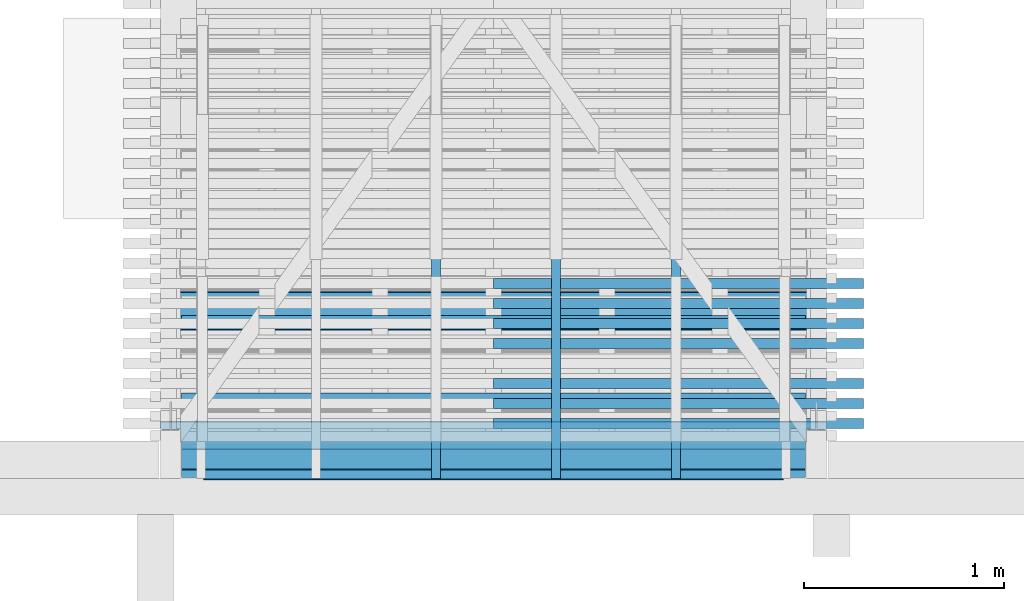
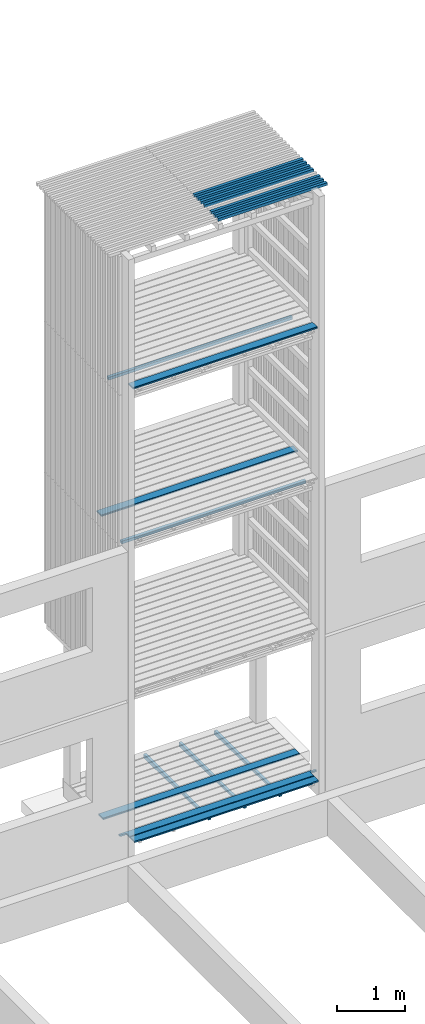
# One storey, part 18 of 182: 17 beams.
"""IFC2X3 building model written with IfcOpenShell, lengths in metres."""

from ifc_helpers import new_model, si_unit, frame, origin, place, context, project, spatial, faceted_brep, element, save


model = new_model("IFC2X3")

# Units and contexts
model_context = context("Model", 3, precision=1e-06, world=origin())
ifc_project = project(units=[si_unit("LENGTHUNIT", "METRE"), si_unit("PLANEANGLEUNIT", "RADIAN")], contexts=[model_context])

# Site, building, storey
site = spatial("IfcSite", under=ifc_project, CompositionType="ELEMENT")
building = spatial("IfcBuilding", under=site, CompositionType="ELEMENT")
storey = spatial("IfcBuildingStorey", under=building, Name="vs", CompositionType="ELEMENT", Elevation=-0.85)

# Beams
placement = place(None, origin())
beam_1_placement = place(placement, frame((6.829197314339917, 11.145077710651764, 10.47999999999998), z_axis=(0.0, 0.0, 1.0), x_axis=(-1.0, 0.0, 0.0)))
element("IfcBeam", 1, at=beam_1_placement, inside=storey, Name="Bardage", context=model_context, shape_type="Brep", body=[
    faceted_brep([(-3e-15, 0.024999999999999, 0.025000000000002), (-3e-15, -0.025000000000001, 0.025000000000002), (1.849999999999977, -0.025000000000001, 0.025000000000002), (1.849999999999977, 0.024999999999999, 0.025000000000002), (1.849999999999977, -0.025000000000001, 0.025000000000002), (-3e-15, -0.025000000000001, 0.025000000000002), (-3e-15, -0.025000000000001, -0.024999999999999), (1.849999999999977, -0.025000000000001, -0.024999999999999), (-3e-15, -0.025000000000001, 0.025000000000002), (-3e-15, 0.024999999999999, 0.025000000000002), (-3e-15, 0.024999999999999, -0.024999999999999), (-3e-15, -0.025000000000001, -0.024999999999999), (-3e-15, 0.024999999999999, -0.024999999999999), (-3e-15, 0.024999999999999, 0.025000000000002), (1.849999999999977, 0.024999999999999, 0.025000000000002), (1.849999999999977, 0.024999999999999, -0.024999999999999), (1.849999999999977, -0.025000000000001, -0.024999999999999), (-3e-15, -0.025000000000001, -0.024999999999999), (-3e-15, 0.024999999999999, -0.024999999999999), (1.849999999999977, 0.024999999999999, -0.024999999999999), (1.849999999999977, -0.025000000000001, 0.025000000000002), (1.849999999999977, -0.025000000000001, -0.024999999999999), (1.849999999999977, 0.024999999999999, -0.024999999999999), (1.849999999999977, 0.024999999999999, 0.025000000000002)], [[[0, 1, 2, 3]], [[4, 5, 6, 7]], [[8, 9, 10, 11]], [[12, 13, 14, 15]], [[16, 17, 18, 19]], [[20, 21, 22, 23]]]),
])
beam_2_placement = place(placement, frame((6.829197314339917, 10.945077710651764, 10.47999999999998), z_axis=(0.0, 0.0, 1.0), x_axis=(-1.0, 2e-15, 0.0)))
element("IfcBeam", 2, at=beam_2_placement, inside=storey, Name="Bardage", context=model_context, shape_type="Brep", body=[
    faceted_brep([(-3e-15, 0.024999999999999, 0.025000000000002), (-3e-15, -0.025000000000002, 0.025000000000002), (1.849999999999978, -0.024999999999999, 0.025000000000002), (1.849999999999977, 0.025000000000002, 0.025000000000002), (1.849999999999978, -0.024999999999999, 0.025000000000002), (-3e-15, -0.025000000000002, 0.025000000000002), (-3e-15, -0.025000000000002, -0.024999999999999), (1.849999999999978, -0.024999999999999, -0.024999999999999), (-3e-15, -0.025000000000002, 0.025000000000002), (-3e-15, 0.024999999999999, 0.025000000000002), (-3e-15, 0.024999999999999, -0.024999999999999), (-3e-15, -0.025000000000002, -0.024999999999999), (-3e-15, 0.024999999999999, -0.024999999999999), (-3e-15, 0.024999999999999, 0.025000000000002), (1.849999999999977, 0.025000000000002, 0.025000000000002), (1.849999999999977, 0.025000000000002, -0.024999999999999), (1.849999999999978, -0.024999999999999, -0.024999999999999), (-3e-15, -0.025000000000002, -0.024999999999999), (-3e-15, 0.024999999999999, -0.024999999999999), (1.849999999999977, 0.025000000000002, -0.024999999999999), (1.849999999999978, -0.024999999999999, 0.025000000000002), (1.849999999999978, -0.024999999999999, -0.024999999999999), (1.849999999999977, 0.025000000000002, -0.024999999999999), (1.849999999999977, 0.025000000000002, 0.025000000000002)], [[[0, 1, 2, 3]], [[4, 5, 6, 7]], [[8, 9, 10, 11]], [[12, 13, 14, 15]], [[16, 17, 18, 19]], [[20, 21, 22, 23]]]),
])
beam_3_placement = place(placement, frame((6.829197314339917, 11.345077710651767, 10.47999999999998), z_axis=(0.0, 0.0, 1.0), x_axis=(-1.0, 0.0, 0.0)))
element("IfcBeam", 3, at=beam_3_placement, inside=storey, Name="Bardage", context=model_context, shape_type="Brep", body=[
    faceted_brep([(-3e-15, 0.025000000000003, 0.025000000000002), (-3e-15, -0.024999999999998, 0.025000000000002), (1.849999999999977, -0.024999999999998, 0.025000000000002), (1.849999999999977, 0.024999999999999, 0.025000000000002), (1.849999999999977, -0.024999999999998, 0.025000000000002), (-3e-15, -0.024999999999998, 0.025000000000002), (-3e-15, -0.024999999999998, -0.024999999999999), (1.849999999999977, -0.024999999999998, -0.024999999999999), (-3e-15, -0.024999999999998, 0.025000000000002), (-3e-15, 0.025000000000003, 0.025000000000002), (-3e-15, 0.025000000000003, -0.024999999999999), (-3e-15, -0.024999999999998, -0.024999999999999), (-3e-15, 0.025000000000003, -0.024999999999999), (-3e-15, 0.025000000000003, 0.025000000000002), (1.849999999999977, 0.024999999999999, 0.025000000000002), (1.849999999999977, 0.024999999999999, -0.024999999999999), (1.849999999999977, -0.024999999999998, -0.024999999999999), (-3e-15, -0.024999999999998, -0.024999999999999), (-3e-15, 0.025000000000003, -0.024999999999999), (1.849999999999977, 0.024999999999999, -0.024999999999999), (1.849999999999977, -0.024999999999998, 0.025000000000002), (1.849999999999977, -0.024999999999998, -0.024999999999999), (1.849999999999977, 0.024999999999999, -0.024999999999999), (1.849999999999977, 0.024999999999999, 0.025000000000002)], [[[0, 1, 2, 3]], [[4, 5, 6, 7]], [[8, 9, 10, 11]], [[12, 13, 14, 15]], [[16, 17, 18, 19]], [[20, 21, 22, 23]]]),
])
beam_4_placement = place(placement, frame((5.892197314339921, 10.470077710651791, -0.015599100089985), z_axis=(0.0, 0.0, 1.0), x_axis=(0.0, 1.0, 0.0)))
element("IfcBeam", 4, at=beam_4_placement, inside=storey, Name="Calage", context=model_context, shape_type="Brep", body=[
    faceted_brep([(0.0, 0.022499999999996, 0.002600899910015), (1.91000000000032, 0.022499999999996, -0.035599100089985), (1.91000000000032, -0.022500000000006, -0.035599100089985), (0.0, -0.022500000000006, 0.002600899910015), (0.0, -0.022500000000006, 0.035599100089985), (0.0, 0.022499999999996, 0.035599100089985), (0.0, 0.022499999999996, 0.002600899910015), (0.0, -0.022500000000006, 0.002600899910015), (0.0, 0.022499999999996, 0.035599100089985), (0.0, -0.022500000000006, 0.035599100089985), (1.91000000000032, -0.022500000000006, 0.035599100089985), (1.91000000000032, 0.022499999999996, 0.035599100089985), (0.0, 0.022499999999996, 0.002600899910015), (0.0, 0.022499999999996, 0.035599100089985), (1.91000000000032, 0.022499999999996, 0.035599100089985), (1.91000000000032, 0.022499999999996, -0.035599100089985), (1.91000000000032, 0.022499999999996, -0.035599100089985), (1.91000000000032, 0.022499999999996, 0.035599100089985), (1.91000000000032, -0.022500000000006, 0.035599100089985), (1.91000000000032, -0.022500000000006, -0.035599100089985), (1.91000000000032, -0.022500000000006, -0.035599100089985), (1.91000000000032, -0.022500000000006, 0.035599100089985), (0.0, -0.022500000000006, 0.035599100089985), (0.0, -0.022500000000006, 0.002600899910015)], [[[0, 1, 2, 3]], [[4, 5, 6, 7]], [[8, 9, 10, 11]], [[12, 13, 14, 15]], [[16, 17, 18, 19]], [[20, 21, 22, 23]]]),
])
beam_5_placement = place(placement, frame((6.829197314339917, 10.745077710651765, 10.47999999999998), z_axis=(0.0, 0.0, 1.0), x_axis=(-1.0, 0.0, 0.0)))
element("IfcBeam", 5, at=beam_5_placement, inside=storey, Name="Bardage", context=model_context, shape_type="Brep", body=[
    faceted_brep([(-3e-15, 0.024999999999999, 0.025000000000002), (-3e-15, -0.024999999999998, 0.025000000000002), (1.849999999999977, -0.025000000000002, 0.025000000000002), (1.849999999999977, 0.024999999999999, 0.025000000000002), (1.849999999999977, -0.025000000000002, 0.025000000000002), (-3e-15, -0.024999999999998, 0.025000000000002), (-3e-15, -0.024999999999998, -0.024999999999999), (1.849999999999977, -0.025000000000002, -0.024999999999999), (-3e-15, -0.024999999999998, 0.025000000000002), (-3e-15, 0.024999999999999, 0.025000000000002), (-3e-15, 0.024999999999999, -0.024999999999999), (-3e-15, -0.024999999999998, -0.024999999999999), (-3e-15, 0.024999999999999, -0.024999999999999), (-3e-15, 0.024999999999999, 0.025000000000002), (1.849999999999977, 0.024999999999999, 0.025000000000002), (1.849999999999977, 0.024999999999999, -0.024999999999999), (1.849999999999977, -0.025000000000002, -0.024999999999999), (-3e-15, -0.024999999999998, -0.024999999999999), (-3e-15, 0.024999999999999, -0.024999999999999), (1.849999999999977, 0.024999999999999, -0.024999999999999), (1.849999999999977, -0.025000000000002, 0.025000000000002), (1.849999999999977, -0.025000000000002, -0.024999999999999), (1.849999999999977, 0.024999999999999, -0.024999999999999), (1.849999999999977, 0.024999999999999, 0.025000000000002)], [[[0, 1, 2, 3]], [[4, 5, 6, 7]], [[8, 9, 10, 11]], [[12, 13, 14, 15]], [[16, 17, 18, 19]], [[20, 21, 22, 23]]]),
])
beam_6_placement = place(placement, frame((6.829197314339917, 10.845077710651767, 10.47999999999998), z_axis=(0.0, 0.0, 1.0), x_axis=(-1.0, 0.0, 0.0)))
element("IfcBeam", 6, at=beam_6_placement, inside=storey, Name="Bardage", context=model_context, shape_type="Brep", body=[
    faceted_brep([(-3e-15, 0.025000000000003, 0.025000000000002), (-3e-15, -0.024999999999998, 0.025000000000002), (1.849999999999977, -0.024999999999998, 0.025000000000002), (1.849999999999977, 0.025000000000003, 0.025000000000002), (1.849999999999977, -0.024999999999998, 0.025000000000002), (-3e-15, -0.024999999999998, 0.025000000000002), (-3e-15, -0.024999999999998, -0.024999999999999), (1.849999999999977, -0.024999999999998, -0.024999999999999), (-3e-15, -0.024999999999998, 0.025000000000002), (-3e-15, 0.025000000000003, 0.025000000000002), (-3e-15, 0.025000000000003, -0.024999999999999), (-3e-15, -0.024999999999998, -0.024999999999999), (-3e-15, 0.025000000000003, -0.024999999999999), (-3e-15, 0.025000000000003, 0.025000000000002), (1.849999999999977, 0.025000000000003, 0.025000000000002), (1.849999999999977, 0.025000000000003, -0.024999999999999), (1.849999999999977, -0.024999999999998, -0.024999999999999), (-3e-15, -0.024999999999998, -0.024999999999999), (-3e-15, 0.025000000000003, -0.024999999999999), (1.849999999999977, 0.025000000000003, -0.024999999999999), (1.849999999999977, -0.024999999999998, 0.025000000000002), (1.849999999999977, -0.024999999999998, -0.024999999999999), (1.849999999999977, 0.025000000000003, -0.024999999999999), (1.849999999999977, 0.025000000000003, 0.025000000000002)], [[[0, 1, 2, 3]], [[4, 5, 6, 7]], [[8, 9, 10, 11]], [[12, 13, 14, 15]], [[16, 17, 18, 19]], [[20, 21, 22, 23]]]),
])
beam_7_placement = place(placement, frame((6.829197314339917, 11.445077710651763, 10.47999999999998), z_axis=(0.0, 0.0, 1.0), x_axis=(-1.0, 2e-15, 0.0)))
element("IfcBeam", 7, at=beam_7_placement, inside=storey, Name="Bardage", context=model_context, shape_type="Brep", body=[
    faceted_brep([(-3e-15, 0.024999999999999, 0.025000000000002), (-3e-15, -0.025000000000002, 0.025000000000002), (1.849999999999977, -0.024999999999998, 0.025000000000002), (1.849999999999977, 0.025000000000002, 0.025000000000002), (1.849999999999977, -0.024999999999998, 0.025000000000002), (-3e-15, -0.025000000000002, 0.025000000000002), (-3e-15, -0.025000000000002, -0.024999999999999), (1.849999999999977, -0.024999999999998, -0.024999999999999), (-3e-15, -0.025000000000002, 0.025000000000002), (-3e-15, 0.024999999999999, 0.025000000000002), (-3e-15, 0.024999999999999, -0.024999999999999), (-3e-15, -0.025000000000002, -0.024999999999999), (-3e-15, 0.024999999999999, -0.024999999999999), (-3e-15, 0.024999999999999, 0.025000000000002), (1.849999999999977, 0.025000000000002, 0.025000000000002), (1.849999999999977, 0.025000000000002, -0.024999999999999), (1.849999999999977, -0.024999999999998, -0.024999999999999), (-3e-15, -0.025000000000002, -0.024999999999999), (-3e-15, 0.024999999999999, -0.024999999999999), (1.849999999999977, 0.025000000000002, -0.024999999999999), (1.849999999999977, -0.024999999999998, 0.025000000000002), (1.849999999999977, -0.024999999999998, -0.024999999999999), (1.849999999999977, 0.025000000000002, -0.024999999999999), (1.849999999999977, 0.025000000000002, 0.025000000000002)], [[[0, 1, 2, 3]], [[4, 5, 6, 7]], [[8, 9, 10, 11]], [[12, 13, 14, 15]], [[16, 17, 18, 19]], [[20, 21, 22, 23]]]),
])
beam_8_placement = place(placement, frame((5.292197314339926, 10.470077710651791, -0.015599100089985), z_axis=(0.0, 0.0, 1.0), x_axis=(0.0, 1.0, 0.0)))
element("IfcBeam", 8, at=beam_8_placement, inside=storey, Name="Calage", context=model_context, shape_type="Brep", body=[
    faceted_brep([(0.0, 0.02249999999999, 0.002600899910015), (1.91000000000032, 0.02249999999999, -0.035599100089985), (1.91000000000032, -0.022499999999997, -0.035599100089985), (0.0, -0.022499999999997, 0.002600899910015), (0.0, -0.022499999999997, 0.035599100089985), (0.0, 0.02249999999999, 0.035599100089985), (0.0, 0.02249999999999, 0.002600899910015), (0.0, -0.022499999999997, 0.002600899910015), (0.0, 0.02249999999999, 0.035599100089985), (0.0, -0.022499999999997, 0.035599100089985), (1.91000000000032, -0.022499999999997, 0.035599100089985), (1.91000000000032, 0.02249999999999, 0.035599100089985), (0.0, 0.02249999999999, 0.002600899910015), (0.0, 0.02249999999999, 0.035599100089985), (1.91000000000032, 0.02249999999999, 0.035599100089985), (1.91000000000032, 0.02249999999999, -0.035599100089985), (1.91000000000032, 0.02249999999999, -0.035599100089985), (1.91000000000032, 0.02249999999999, 0.035599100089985), (1.91000000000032, -0.022499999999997, 0.035599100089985), (1.91000000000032, -0.022499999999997, -0.035599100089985), (1.91000000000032, -0.022499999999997, -0.035599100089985), (1.91000000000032, -0.022499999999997, 0.035599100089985), (0.0, -0.022499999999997, 0.035599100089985), (0.0, -0.022499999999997, 0.002600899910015)], [[[0, 1, 2, 3]], [[4, 5, 6, 7]], [[8, 9, 10, 11]], [[12, 13, 14, 15]], [[16, 17, 18, 19]], [[20, 21, 22, 23]]]),
])
beam_9_placement = place(placement, frame((6.539197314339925, 11.261327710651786, 7.867999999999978), z_axis=(0.0, 0.0, 1.0), x_axis=(-1.0, 0.0, 0.0)))
element("IfcBeam", 9, at=beam_9_placement, inside=storey, Name="Bardage", context=model_context, shape_type="Brep", body=[
    faceted_brep([(3.120000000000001, 0.024999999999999, -0.025000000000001), (3.120000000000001, -0.024999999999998, -0.025000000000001), (-3e-15, -0.025000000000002, -0.025000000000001), (-3e-15, 0.024999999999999, -0.025000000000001), (-3e-15, -0.025000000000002, -0.025000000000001), (3.120000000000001, -0.024999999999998, -0.025000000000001), (3.120000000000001, -0.024999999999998, 0.024999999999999), (-3e-15, -0.025000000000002, 0.024999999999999), (3.120000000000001, -0.024999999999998, -0.025000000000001), (3.120000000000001, 0.024999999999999, -0.025000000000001), (3.120000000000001, 0.024999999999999, 0.024999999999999), (3.120000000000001, -0.024999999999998, 0.024999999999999), (3.120000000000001, 0.024999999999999, 0.024999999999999), (3.120000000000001, 0.024999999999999, -0.025000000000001), (-3e-15, 0.024999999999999, -0.025000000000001), (-3e-15, 0.024999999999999, 0.024999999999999), (-3e-15, -0.025000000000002, 0.024999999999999), (3.120000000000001, -0.024999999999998, 0.024999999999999), (3.120000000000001, 0.024999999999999, 0.024999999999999), (-3e-15, 0.024999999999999, 0.024999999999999), (-3e-15, -0.025000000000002, -0.025000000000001), (-3e-15, -0.025000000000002, 0.024999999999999), (-3e-15, 0.024999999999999, 0.024999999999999), (-3e-15, 0.024999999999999, -0.025000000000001)], [[[0, 1, 2, 3]], [[4, 5, 6, 7]], [[8, 9, 10, 11]], [[12, 13, 14, 15]], [[16, 17, 18, 19]], [[20, 21, 22, 23]]]),
])
beam_10_placement = place(placement, frame((4.692197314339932, 10.470077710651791, -0.015599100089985), z_axis=(0.0, 0.0, 1.0), x_axis=(0.0, 1.0, 0.0)))
element("IfcBeam", 10, at=beam_10_placement, inside=storey, Name="Calage", context=model_context, shape_type="Brep", body=[
    faceted_brep([(0.0, 0.022500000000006, 0.002600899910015), (1.91000000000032, 0.022500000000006, -0.035599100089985), (1.91000000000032, -0.022499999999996, -0.035599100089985), (0.0, -0.022499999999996, 0.002600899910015), (0.0, -0.022499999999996, 0.035599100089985), (0.0, 0.022500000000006, 0.035599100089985), (0.0, 0.022500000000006, 0.002600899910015), (0.0, -0.022499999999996, 0.002600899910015), (0.0, 0.022500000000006, 0.035599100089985), (0.0, -0.022499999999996, 0.035599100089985), (1.910000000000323, -0.022499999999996, 0.035599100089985), (1.910000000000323, 0.022500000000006, 0.035599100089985), (0.0, 0.022500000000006, 0.002600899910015), (0.0, 0.022500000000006, 0.035599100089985), (1.910000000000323, 0.022500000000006, 0.035599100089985), (1.91000000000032, 0.022500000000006, -0.035599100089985), (1.91000000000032, 0.022500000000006, -0.035599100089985), (1.910000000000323, 0.022500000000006, 0.035599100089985), (1.910000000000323, -0.022499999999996, 0.035599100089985), (1.91000000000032, -0.022499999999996, -0.035599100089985), (1.91000000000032, -0.022499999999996, -0.035599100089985), (1.910000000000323, -0.022499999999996, 0.035599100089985), (0.0, -0.022499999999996, 0.035599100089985), (0.0, -0.022499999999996, 0.002600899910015)], [[[0, 1, 2, 3]], [[4, 5, 6, 7]], [[8, 9, 10, 11]], [[12, 13, 14, 15]], [[16, 17, 18, 19]], [[20, 21, 22, 23]]]),
])
beam_11_placement = place(placement, frame((6.644197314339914, 11.284577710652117, 0.033500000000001), z_axis=(0.0, 0.0, 1.0), x_axis=(-1.0, -1e-15, 0.0)))
element("IfcBeam", 11, at=beam_11_placement, inside=storey, Name="Caillebotis", context=model_context, shape_type="Brep", body=[
    faceted_brep([(3.329999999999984, -0.067499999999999, 0.0135), (3.329999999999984, -0.072500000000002, 0.008500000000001), (3.329999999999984, -0.072500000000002, -0.013500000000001), (3.329999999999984, 0.072500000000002, -0.013500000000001), (3.329999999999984, 0.072500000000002, 0.0085), (3.329999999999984, 0.067499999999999, 0.0135), (0.0, 0.067500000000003, 0.0135), (0.0, 0.072500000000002, 0.0085), (0.0, 0.072500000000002, -0.013500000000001), (0.0, -0.072499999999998, -0.013500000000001), (0.0, -0.072499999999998, 0.008500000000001), (0.0, -0.067499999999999, 0.0135), (3.329999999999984, -0.072500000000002, -0.013500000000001), (3.329999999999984, -0.072500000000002, 0.008500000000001), (0.0, -0.072499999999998, 0.008500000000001), (0.0, -0.072499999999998, -0.013500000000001), (3.329999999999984, 0.072500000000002, -0.013500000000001), (3.329999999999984, -0.072500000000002, -0.013500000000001), (0.0, -0.072499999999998, -0.013500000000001), (0.0, 0.072500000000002, -0.013500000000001), (3.329999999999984, 0.072500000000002, 0.0085), (3.329999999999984, 0.072500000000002, -0.013500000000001), (0.0, 0.072500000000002, -0.013500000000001), (0.0, 0.072500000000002, 0.0085), (3.329999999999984, 0.067499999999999, 0.0135), (3.329999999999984, 0.072500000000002, 0.0085), (0.0, 0.072500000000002, 0.0085), (0.0, 0.067500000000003, 0.0135), (3.329999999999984, -0.067499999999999, 0.0135), (3.329999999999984, 0.067499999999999, 0.0135), (0.0, 0.067500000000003, 0.0135), (0.0, -0.067499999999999, 0.0135), (0.0, -0.072499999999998, 0.008500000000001), (3.329999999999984, -0.072500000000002, 0.008500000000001), (3.329999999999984, -0.067499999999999, 0.0135), (0.0, -0.067499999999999, 0.0135)], [[[0, 1, 2, 3, 4, 5]], [[6, 7, 8, 9, 10, 11]], [[12, 13, 14, 15]], [[16, 17, 18, 19]], [[20, 21, 22, 23]], [[24, 25, 26, 27]], [[28, 29, 30, 31]], [[32, 33, 34, 35]]]),
])
beam_12_placement = place(placement, frame((6.829197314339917, 11.245077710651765, 10.47999999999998), z_axis=(0.0, 0.0, 1.0), x_axis=(-1.0, 0.0, 0.0)))
element("IfcBeam", 12, at=beam_12_placement, inside=storey, Name="Bardage", context=model_context, shape_type="Brep", body=[
    faceted_brep([(-3e-15, 0.024999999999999, 0.025000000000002), (-3e-15, -0.024999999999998, 0.025000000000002), (1.849999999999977, -0.024999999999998, 0.025000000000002), (1.849999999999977, 0.024999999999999, 0.025000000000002), (1.849999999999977, -0.024999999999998, 0.025000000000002), (-3e-15, -0.024999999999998, 0.025000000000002), (-3e-15, -0.024999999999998, -0.024999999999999), (1.849999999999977, -0.024999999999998, -0.024999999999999), (-3e-15, -0.024999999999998, 0.025000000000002), (-3e-15, 0.024999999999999, 0.025000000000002), (-3e-15, 0.024999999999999, -0.024999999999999), (-3e-15, -0.024999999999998, -0.024999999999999), (-3e-15, 0.024999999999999, -0.024999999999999), (-3e-15, 0.024999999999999, 0.025000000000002), (1.849999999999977, 0.024999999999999, 0.025000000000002), (1.849999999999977, 0.024999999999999, -0.024999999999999), (1.849999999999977, -0.024999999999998, -0.024999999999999), (-3e-15, -0.024999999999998, -0.024999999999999), (-3e-15, 0.024999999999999, -0.024999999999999), (1.849999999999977, 0.024999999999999, -0.024999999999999), (1.849999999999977, -0.024999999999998, 0.025000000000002), (1.849999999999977, -0.024999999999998, -0.024999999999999), (1.849999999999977, 0.024999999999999, -0.024999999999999), (1.849999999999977, 0.024999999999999, 0.025000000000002)], [[[0, 1, 2, 3]], [[4, 5, 6, 7]], [[8, 9, 10, 11]], [[12, 13, 14, 15]], [[16, 17, 18, 19]], [[20, 21, 22, 23]]]),
])
beam_13_placement = place(placement, frame((6.539197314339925, 10.534577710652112, 0.033500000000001), z_axis=(0.0, 0.0, 1.0), x_axis=(-1.0, 0.0, 0.0)))
element("IfcBeam", 13, at=beam_13_placement, inside=storey, Name="Caillebotis", context=model_context, shape_type="Brep", body=[
    faceted_brep([(0.109999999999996, 0.072499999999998, 0.0085), (3.010000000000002, 0.072499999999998, 0.0085), (3.010000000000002, 0.072499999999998, -0.013500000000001), (0.109999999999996, 0.072499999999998, -0.0135), (0.109999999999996, 0.067499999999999, 0.0135), (3.010000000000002, 0.067499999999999, 0.0135), (3.010000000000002, 0.072499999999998, 0.0085), (0.109999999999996, 0.072499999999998, 0.0085), (0.109999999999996, 0.05950000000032, 0.0135), (0.109999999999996, 0.067499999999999, 0.0135), (0.109999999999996, 0.072499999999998, 0.0085), (0.109999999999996, 0.072499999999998, -0.0135), (0.109999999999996, 0.05950000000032, -0.0135), (0.109999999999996, 0.05950000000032, 0.0135), (0.109999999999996, 0.05950000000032, -0.0135), (-3e-15, 0.05950000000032, -0.0135), (-3e-15, 0.05950000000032, 0.0135), (-3e-15, -0.072500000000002, 0.008500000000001), (3.120000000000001, -0.072500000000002, 0.008500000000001), (3.120000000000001, -0.067500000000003, 0.0135), (-3e-15, -0.067500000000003, 0.0135), (-3e-15, -0.072500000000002, -0.0135), (-3e-15, -0.072500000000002, 0.008500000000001), (-3e-15, -0.067500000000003, 0.0135), (-3e-15, 0.05950000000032, 0.0135), (-3e-15, 0.05950000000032, -0.0135), (3.010000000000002, 0.067499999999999, 0.0135), (0.109999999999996, 0.067499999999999, 0.0135), (0.109999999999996, 0.05950000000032, 0.0135), (-3e-15, 0.05950000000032, 0.0135), (-3e-15, -0.067500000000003, 0.0135), (3.120000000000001, -0.067500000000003, 0.0135), (3.120000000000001, 0.05950000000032, 0.0135), (3.010000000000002, 0.05950000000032, 0.0135), (3.010000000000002, 0.05950000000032, -0.013500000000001), (3.010000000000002, 0.072499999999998, -0.013500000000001), (3.010000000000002, 0.072499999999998, 0.0085), (3.010000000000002, 0.067499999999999, 0.0135), (3.010000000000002, 0.05950000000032, 0.0135), (3.010000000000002, 0.05950000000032, -0.013500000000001), (3.010000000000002, 0.05950000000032, 0.0135), (3.120000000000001, 0.05950000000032, 0.0135), (3.120000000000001, 0.05950000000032, -0.013500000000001), (-3e-15, -0.072500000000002, -0.0135), (-3e-15, 0.05950000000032, -0.0135), (0.109999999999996, 0.05950000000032, -0.0135), (0.109999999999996, 0.072499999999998, -0.0135), (3.010000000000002, 0.072499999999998, -0.013500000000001), (3.010000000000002, 0.05950000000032, -0.013500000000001), (3.120000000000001, 0.05950000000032, -0.013500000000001), (3.120000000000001, -0.072500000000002, -0.013500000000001), (-3e-15, -0.072500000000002, 0.008500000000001), (-3e-15, -0.072500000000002, -0.0135), (3.120000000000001, -0.072500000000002, -0.013500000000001), (3.120000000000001, -0.072500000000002, 0.008500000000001), (3.120000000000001, 0.05950000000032, 0.0135), (3.120000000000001, -0.067500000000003, 0.0135), (3.120000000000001, -0.072500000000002, 0.008500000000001), (3.120000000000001, -0.072500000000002, -0.013500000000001), (3.120000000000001, 0.05950000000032, -0.013500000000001)], [[[0, 1, 2, 3]], [[4, 5, 6, 7]], [[8, 9, 10, 11, 12]], [[13, 14, 15, 16]], [[17, 18, 19, 20]], [[21, 22, 23, 24, 25]], [[26, 27, 28, 29, 30, 31, 32, 33]], [[34, 35, 36, 37, 38]], [[39, 40, 41, 42]], [[43, 44, 45, 46, 47, 48, 49, 50]], [[51, 52, 53, 54]], [[55, 56, 57, 58, 59]]]),
])
beam_14_placement = place(placement, frame((6.539197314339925, 10.584577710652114, 8.13349999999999), z_axis=(0.0, 0.0, 1.0), x_axis=(-1.0, 0.0, 0.0)))
element("IfcBeam", 14, at=beam_14_placement, inside=storey, Name="Caillebotis", context=model_context, shape_type="Brep", body=[
    faceted_brep([(-3e-15, -0.072500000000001, 0.008500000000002), (-3e-15, -0.067500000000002, 0.013499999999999), (-3e-15, 0.067499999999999, 0.013499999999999), (-3e-15, 0.072499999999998, 0.0085), (-3e-15, 0.072499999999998, -0.013500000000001), (-3e-15, -0.072500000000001, -0.013500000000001), (-3e-15, 0.072499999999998, -0.013500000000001), (-3e-15, 0.072499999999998, 0.0085), (3.120000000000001, 0.072499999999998, 0.008499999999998), (3.120000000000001, 0.072499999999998, -0.013500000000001), (-3e-15, -0.072500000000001, -0.013500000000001), (-3e-15, 0.072499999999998, -0.013500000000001), (3.120000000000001, 0.072499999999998, -0.013500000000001), (3.120000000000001, -0.072500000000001, -0.013500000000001), (-3e-15, -0.072500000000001, 0.008500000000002), (-3e-15, -0.072500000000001, -0.013500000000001), (3.120000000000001, -0.072500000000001, -0.013500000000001), (3.120000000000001, -0.072500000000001, 0.0085), (-3e-15, -0.067500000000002, 0.013499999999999), (-3e-15, -0.072500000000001, 0.008500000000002), (3.120000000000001, -0.072500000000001, 0.0085), (3.120000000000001, -0.067500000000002, 0.013499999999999), (-3e-15, 0.067499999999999, 0.013499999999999), (-3e-15, -0.067500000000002, 0.013499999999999), (3.120000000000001, -0.067500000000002, 0.013499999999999), (3.120000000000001, 0.067499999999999, 0.013499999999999), (-3e-15, 0.072499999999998, 0.0085), (-3e-15, 0.067499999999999, 0.013499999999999), (3.120000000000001, 0.067499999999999, 0.013499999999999), (3.120000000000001, 0.072499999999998, 0.008499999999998), (3.120000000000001, -0.072500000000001, -0.013500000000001), (3.120000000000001, 0.072499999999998, -0.013500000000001), (3.120000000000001, 0.072499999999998, 0.008499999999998), (3.120000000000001, 0.067499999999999, 0.013499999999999), (3.120000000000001, -0.067500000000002, 0.013499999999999), (3.120000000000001, -0.072500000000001, 0.0085)], [[[0, 1, 2, 3, 4, 5]], [[6, 7, 8, 9]], [[10, 11, 12, 13]], [[14, 15, 16, 17]], [[18, 19, 20, 21]], [[22, 23, 24, 25]], [[26, 27, 28, 29]], [[30, 31, 32, 33, 34, 35]]]),
])
beam_15_placement = place(placement, frame((6.644197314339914, 10.68457771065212, 0.033500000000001), z_axis=(0.0, 0.0, 1.0), x_axis=(-1.0, 0.0, 0.0)))
element("IfcBeam", 15, at=beam_15_placement, inside=storey, Name="Caillebotis", context=model_context, shape_type="Brep", body=[
    faceted_brep([(0.0, -0.072499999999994, -0.0135), (0.0, -0.072499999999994, 0.008500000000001), (0.0, -0.067499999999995, 0.0135), (0.0, -0.030499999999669, 0.0135), (0.0, -0.030499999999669, -0.0135), (3.329999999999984, -0.067499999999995, 0.0135), (3.329999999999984, -0.030499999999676, 0.0135), (3.224999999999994, -0.030499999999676, 0.0135), (3.224999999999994, 0.067500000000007, 0.0135), (0.104999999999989, 0.067500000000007, 0.0135), (0.104999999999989, -0.030499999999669, 0.0135), (0.0, -0.030499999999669, 0.0135), (0.0, -0.067499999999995, 0.0135), (0.104999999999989, -0.030499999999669, 0.0135), (0.104999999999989, 0.067500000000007, 0.0135), (0.104999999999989, 0.072500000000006, 0.0085), (0.104999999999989, 0.072500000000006, -0.0135), (0.104999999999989, -0.030499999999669, -0.0135), (0.104999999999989, 0.072500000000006, 0.0085), (0.104999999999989, 0.067500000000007, 0.0135), (3.224999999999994, 0.067500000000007, 0.0135), (3.224999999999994, 0.072500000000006, 0.0085), (0.104999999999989, 0.072500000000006, -0.0135), (0.104999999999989, 0.072500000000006, 0.0085), (3.224999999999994, 0.072500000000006, 0.0085), (3.224999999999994, 0.072500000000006, -0.013500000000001), (3.224999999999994, 0.072500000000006, -0.013500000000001), (3.224999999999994, 0.072500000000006, 0.0085), (3.224999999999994, 0.067500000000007, 0.0135), (3.224999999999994, -0.030499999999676, 0.0135), (3.224999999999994, -0.030499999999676, -0.013500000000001), (3.224999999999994, -0.030499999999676, -0.013500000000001), (3.224999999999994, -0.030499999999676, 0.0135), (3.329999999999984, -0.030499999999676, 0.0135), (3.329999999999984, -0.030499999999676, -0.013500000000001), (3.329999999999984, -0.072499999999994, 0.008500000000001), (3.329999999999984, -0.072499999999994, -0.013500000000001), (3.329999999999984, -0.030499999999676, -0.013500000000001), (3.329999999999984, -0.030499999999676, 0.0135), (3.329999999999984, -0.067499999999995, 0.0135), (3.329999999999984, -0.072499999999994, 0.008500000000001), (3.329999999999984, -0.067499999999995, 0.0135), (0.0, -0.067499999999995, 0.0135), (0.0, -0.072499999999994, 0.008500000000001), (3.329999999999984, -0.072499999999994, -0.013500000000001), (3.329999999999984, -0.072499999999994, 0.008500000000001), (0.0, -0.072499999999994, 0.008500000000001), (0.0, -0.072499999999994, -0.0135), (0.104999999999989, -0.030499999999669, -0.0135), (0.104999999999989, 0.072500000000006, -0.0135), (3.224999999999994, 0.072500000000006, -0.013500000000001), (3.224999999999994, -0.030499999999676, -0.013500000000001), (3.329999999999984, -0.030499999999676, -0.013500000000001), (3.329999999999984, -0.072499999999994, -0.013500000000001), (0.0, -0.072499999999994, -0.0135), (0.0, -0.030499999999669, -0.0135), (0.0, -0.030499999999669, 0.0135), (0.104999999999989, -0.030499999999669, 0.0135), (0.104999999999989, -0.030499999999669, -0.0135), (0.0, -0.030499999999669, -0.0135)], [[[0, 1, 2, 3, 4]], [[5, 6, 7, 8, 9, 10, 11, 12]], [[13, 14, 15, 16, 17]], [[18, 19, 20, 21]], [[22, 23, 24, 25]], [[26, 27, 28, 29, 30]], [[31, 32, 33, 34]], [[35, 36, 37, 38, 39]], [[40, 41, 42, 43]], [[44, 45, 46, 47]], [[48, 49, 50, 51, 52, 53, 54, 55]], [[56, 57, 58, 59]]]),
])
beam_16_placement = place(placement, frame((6.539197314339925, 10.873827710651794, 5.167999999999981), z_axis=(0.0, 0.0, 1.0), x_axis=(-1.0, 0.0, 0.0)))
element("IfcBeam", 16, at=beam_16_placement, inside=storey, Name="Bardage", context=model_context, shape_type="Brep", body=[
    faceted_brep([(3.120000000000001, 0.025000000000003, -0.025), (3.120000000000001, -0.024999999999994, -0.025), (-3e-15, -0.024999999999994, -0.025), (-3e-15, 0.025000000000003, -0.025), (-3e-15, -0.024999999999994, -0.025), (3.120000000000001, -0.024999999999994, -0.025), (3.120000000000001, -0.024999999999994, 0.025000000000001), (-3e-15, -0.024999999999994, 0.025000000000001), (3.120000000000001, -0.024999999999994, -0.025), (3.120000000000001, 0.025000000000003, -0.025), (3.120000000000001, 0.025000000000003, 0.025000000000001), (3.120000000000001, -0.024999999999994, 0.025000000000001), (3.120000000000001, 0.025000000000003, 0.025000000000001), (3.120000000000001, 0.025000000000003, -0.025), (-3e-15, 0.025000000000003, -0.025), (-3e-15, 0.025000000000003, 0.025000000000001), (-3e-15, -0.024999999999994, 0.025000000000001), (3.120000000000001, -0.024999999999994, 0.025000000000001), (3.120000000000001, 0.025000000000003, 0.025000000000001), (-3e-15, 0.025000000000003, 0.025000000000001), (-3e-15, -0.024999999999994, -0.025), (-3e-15, -0.024999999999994, 0.025000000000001), (-3e-15, 0.025000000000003, 0.025000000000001), (-3e-15, 0.025000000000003, -0.025)], [[[0, 1, 2, 3]], [[4, 5, 6, 7]], [[8, 9, 10, 11]], [[12, 13, 14, 15]], [[16, 17, 18, 19]], [[20, 21, 22, 23]]]),
])
beam_17_placement = place(placement, frame((6.644197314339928, 11.334577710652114, 5.433499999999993), z_axis=(0.0, 0.0, 1.0), x_axis=(-1.0, 0.0, 0.0)))
element("IfcBeam", 17, at=beam_17_placement, inside=storey, Name="Caillebotis", context=model_context, shape_type="Brep", body=[
    faceted_brep([(3.329999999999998, -0.072499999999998, -0.0135), (3.329999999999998, 0.072500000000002, -0.0135), (3.329999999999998, 0.072500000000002, 0.0085), (3.329999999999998, 0.067500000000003, 0.0135), (3.329999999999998, -0.067500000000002, 0.0135), (3.329999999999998, -0.072499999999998, 0.008500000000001), (0.0, -0.072499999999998, 0.008500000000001), (0.0, -0.067500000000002, 0.0135), (0.0, 0.067500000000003, 0.0135), (0.0, 0.072499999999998, 0.0085), (0.0, 0.072499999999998, -0.0135), (0.0, -0.072499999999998, -0.0135), (3.329999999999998, 0.072500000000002, 0.0085), (3.329999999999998, 0.072500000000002, -0.0135), (0.0, 0.072499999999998, -0.0135), (0.0, 0.072499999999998, 0.0085), (3.329999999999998, 0.067500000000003, 0.0135), (3.329999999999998, 0.072500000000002, 0.0085), (0.0, 0.072499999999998, 0.0085), (0.0, 0.067500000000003, 0.0135), (3.329999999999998, -0.067500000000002, 0.0135), (3.329999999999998, 0.067500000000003, 0.0135), (0.0, 0.067500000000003, 0.0135), (0.0, -0.067500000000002, 0.0135), (3.329999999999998, -0.072499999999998, 0.008500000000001), (3.329999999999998, -0.067500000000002, 0.0135), (0.0, -0.067500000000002, 0.0135), (0.0, -0.072499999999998, 0.008500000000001), (3.329999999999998, -0.072499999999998, -0.0135), (3.329999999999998, -0.072499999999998, 0.008500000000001), (0.0, -0.072499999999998, 0.008500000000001), (0.0, -0.072499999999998, -0.0135), (0.0, 0.072499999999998, -0.0135), (3.329999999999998, 0.072500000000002, -0.0135), (3.329999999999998, -0.072499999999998, -0.0135), (0.0, -0.072499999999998, -0.0135)], [[[0, 1, 2, 3, 4, 5]], [[6, 7, 8, 9, 10, 11]], [[12, 13, 14, 15]], [[16, 17, 18, 19]], [[20, 21, 22, 23]], [[24, 25, 26, 27]], [[28, 29, 30, 31]], [[32, 33, 34, 35]]]),
])

save(model, "model.ifc")
